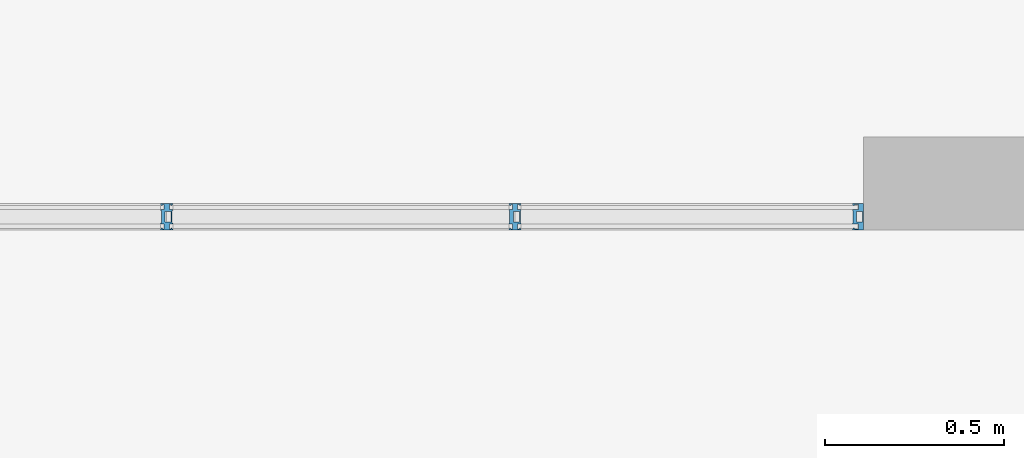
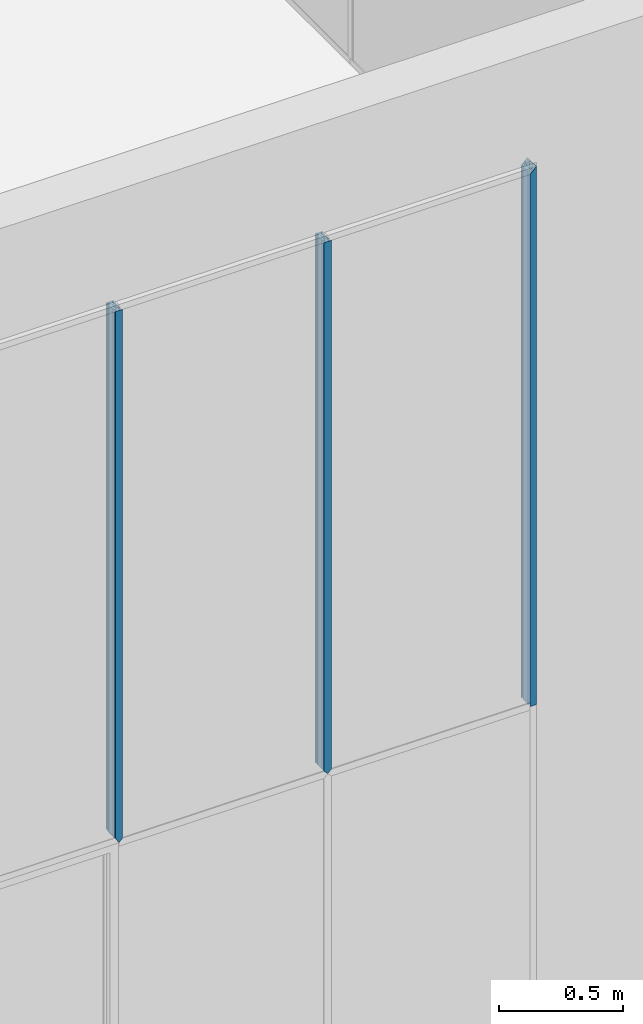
# One storey, part 68 of 246: 3 members, 1 element without a shape of its own.
"""IFC2X3 building model written with IfcOpenShell, lengths in millimetres."""

from ifc_helpers import new_model, entity, si_unit, converted_unit, derived_unit, money_unit, direction, frame, origin_with_axes, place, context, subcontext, project, spatial, faceted_brep, material, material_list, type_object, element, aggregate, save


model = new_model("IFC2X3")

# Units and contexts
model_context = context("Model", 3, precision=0.01, world=origin_with_axes(), true_north=direction((0.0, 1.0)))
body_context = subcontext(model_context, "Body", "Model", "MODEL_VIEW")
ifc_project = project(units=[si_unit("LENGTHUNIT", "METRE", prefix="MILLI"), si_unit("AREAUNIT", "SQUARE_METRE"), si_unit("VOLUMEUNIT", "CUBIC_METRE"), converted_unit("PLANEANGLEUNIT", "DEGREE", entity("IfcPlaneAngleMeasure", 0.0174532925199), si_unit("PLANEANGLEUNIT", "RADIAN"), dimensions=[0, 0, 0, 0, 0, 0, 0]), si_unit("SOLIDANGLEUNIT", "STERADIAN"), money_unit("EUR"), converted_unit("TIMEUNIT", "Year", entity("IfcTimeMeasure", 31556926.0), si_unit("TIMEUNIT", "SECOND"), dimensions=[0, 0, 1, 0, 0, 0, 0]), si_unit("MASSUNIT", "GRAM", prefix="KILO"), si_unit("THERMODYNAMICTEMPERATUREUNIT", "DEGREE_CELSIUS"), si_unit("LUMINOUSINTENSITYUNIT", "LUMEN"), si_unit("ENERGYUNIT", "JOULE", prefix="MEGA"), derived_unit("THERMALCONDUCTANCEUNIT", [(si_unit("POWERUNIT", "WATT"), 1), (si_unit("LENGTHUNIT", "METRE"), -1), (si_unit("THERMODYNAMICTEMPERATUREUNIT", "KELVIN"), -1)]), derived_unit("SPECIFICHEATCAPACITYUNIT", [(si_unit("ENERGYUNIT", "JOULE"), 1), (si_unit("MASSUNIT", "GRAM", prefix="KILO"), -1), (si_unit("THERMODYNAMICTEMPERATUREUNIT", "KELVIN"), -1)]), derived_unit("MASSDENSITYUNIT", [(si_unit("MASSUNIT", "GRAM", prefix="KILO"), 1), (si_unit("VOLUMEUNIT", "CUBIC_METRE"), -1)])], contexts=[model_context])

# Site, building, storey
site_placement = place(None, origin_with_axes())
site = spatial("IfcSite", under=ifc_project, at=site_placement, Name="L.Koidula tn 11b", CompositionType="ELEMENT")
building_placement = place(site_placement, origin_with_axes())
building = spatial("IfcBuilding", under=site, at=building_placement, Name="Rakvere Riigigümnaasium", CompositionType="ELEMENT")
storey_placement = place(building_placement, origin_with_axes())
storey = spatial("IfcBuildingStorey", under=building, at=storey_placement, Name="1.korrus 0,00", CompositionType="ELEMENT", Elevation=0.0)

# Curtain wall, members
curtain_wall_type = type_object("IfcCurtainWallType", Name="Curtain Wall Type", PredefinedType="NOTDEFINED")
curtain_wall_placement = place(storey_placement, frame((26572.4999007, 61372.4546496, 0.0), z_axis=(0.0, 0.0, 1.0), x_axis=(1.0, 0.0, 0.0)))
curtain_wall = element("IfcCurtainWall", 1, at=curtain_wall_placement, inside=storey, type_object=curtain_wall_type, Name="SKLF-01")
ifc_material_1 = material(Name="Klaasvill")
ifc_material_2 = material(Name="Teras RAL7012")
ifc_material_list = material_list([ifc_material_1, ifc_material_2])
member_type_1 = type_object("IfcMemberType", Name="Boundary Frame 30 x 42", PredefinedType="MULLION")
member_1_placement = place(curtain_wall_placement, frame((2917.49009075, 0.0, 2400.0), z_axis=(0.0, 0.0, 1.0), x_axis=(-1.0, 0.0, 0.0)))
member_1 = element("IfcMember", 2, at=member_1_placement, type_object=member_type_1, material=ifc_material_list, Name="SKLF-69-raam", ObjectType="MULLION", context=body_context, shape_type="Brep", body=[
    faceted_brep([(7.49999990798, 15.000000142, 0.0), (13.8499999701, 15.000000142, 0.0), (13.8499999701, 15.000000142, 2636.15000003), (7.49999990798, 15.000000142, 2642.50000009), (7.49999990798, 29.0161444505, 0.0), (13.8499999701, 29.0161444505, 0.0), (13.8499999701, 29.0161444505, 2636.15000003), (7.49999990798, 29.0161444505, 2642.50000009)], [[[0, 1, 2, 3]], [[0, 4, 5, 1]], [[1, 5, 6, 2]], [[3, 2, 6, 7]], [[4, 0, 3, 7]], [[5, 4, 7, 6]]]),
    faceted_brep([(24.987414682, 29.0161444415, 0.0), (25.004489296, 27.0307503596, 0.0), (25.004489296, 27.0307503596, 2624.9955107), (24.987414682, 29.0161444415, 2625.01258532), (28.5126239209, 29.0161444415, 0.0), (28.7655837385, 28.0385325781, 0.0), (28.4955493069, 27.0307503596, 0.0), (27.75780152, 26.2930025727, 0.0), (26.7500193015, 26.0229681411, 0.0), (25.742237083, 26.2930025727, 0.0), (25.742237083, 26.2930025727, 2624.25776292), (26.7500193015, 26.0229681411, 2623.2499807), (27.75780152, 26.2930025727, 2622.24219848), (28.4955493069, 27.0307503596, 2621.50445069), (28.7655837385, 28.0385325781, 2621.23441626), (28.5126239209, 29.0161444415, 2621.48737608)], [[[0, 1, 2, 3]], [[0, 4, 5, 6, 7, 8, 9, 1]], [[1, 9, 10, 2]], [[3, 2, 10, 11, 12, 13, 14, 15]], [[4, 0, 3, 15]], [[5, 4, 15, 14]], [[6, 5, 14, 13]], [[7, 6, 13, 12]], [[8, 7, 12, 11]], [[9, 8, 11, 10]]]),
    faceted_brep([(7.49999990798, -24.9999997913, 0.0), (7.49999990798, -39.0161445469, 0.0), (7.49999990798, -39.0161445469, 2642.50000009), (7.49999990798, -24.9999997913, 2642.50000009), (13.8499999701, -24.9999997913, 0.0), (13.8499999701, -39.0161445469, 0.0), (13.8499999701, -39.0161445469, 2636.15000003), (13.8499999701, -24.9999997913, 2636.15000003)], [[[0, 1, 2, 3]], [[0, 4, 5, 1]], [[1, 5, 6, 2]], [[3, 2, 6, 7]], [[4, 0, 3, 7]], [[5, 4, 7, 6]]]),
    faceted_brep([(25.004489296, -37.0307503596, 0.0), (24.987414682, -39.0161444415, 0.0), (24.987414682, -39.0161444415, 2625.01258532), (25.004489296, -37.0307503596, 2624.9955107), (25.742237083, -36.2930025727, 0.0), (26.7500193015, -36.0229681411, 0.0), (27.75780152, -36.2930025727, 0.0), (28.4955493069, -37.0307503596, 0.0), (28.7655837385, -38.0385325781, 0.0), (28.5126239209, -39.0161444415, 0.0), (28.5126239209, -39.0161444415, 2621.48737608), (28.7655837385, -38.0385325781, 2621.23441626), (28.4955493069, -37.0307503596, 2621.50445069), (27.75780152, -36.2930025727, 2622.24219848), (26.7500193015, -36.0229681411, 2623.2499807), (25.742237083, -36.2930025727, 2624.25776292)], [[[0, 1, 2, 3]], [[0, 4, 5, 6, 7, 8, 9, 1]], [[1, 9, 10, 2]], [[3, 2, 10, 11, 12, 13, 14, 15]], [[4, 0, 3, 15]], [[5, 4, 15, 14]], [[6, 5, 14, 13]], [[7, 6, 13, 12]], [[8, 7, 12, 11]], [[9, 8, 11, 10]]]),
    faceted_brep([(0.0, -22.0000000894, 0.0), (29.5999996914, -22.0000000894, 0.0), (29.5999996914, -22.0000000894, 2620.40000031), (0.0, -22.0000000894, 2650.0), (0.0, 12.0000000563, 0.0), (29.5999996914, 12.0000000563, 0.0), (1.9999999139, 10.0000001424, 0.0), (1.9999999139, -20.0000001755, 0.0), (18.7999996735, -20.0000001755, 0.0), (18.7999996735, 10.0000001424, 0.0), (29.5999996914, 12.0000000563, 2620.40000031), (0.0, 12.0000000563, 2650.0), (1.9999999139, 10.0000001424, 2648.00000009), (18.7999996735, 10.0000001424, 2631.20000033), (18.7999996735, -20.0000001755, 2631.20000033), (1.9999999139, -20.0000001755, 2648.00000009)], [[[0, 1, 2, 3]], [[0, 4, 5, 1], [6, 7, 8, 9]], [[1, 5, 10, 2]], [[3, 2, 10, 11], [12, 13, 14, 15]], [[4, 0, 3, 11]], [[5, 4, 11, 10]], [[7, 6, 12, 15]], [[8, 7, 15, 14]], [[9, 8, 14, 13]], [[6, 9, 13, 12]]]),
    faceted_brep([(0.0, 12.0, 0.0), (29.5999996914, 12.0000000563, 0.0), (29.5999996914, 12.0000000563, 2620.40000031), (0.0, 12.0, 2650.0), (0.0, 32.0, 0.0), (30.0000193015, 32.0, 0.0), (30.0000193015, 29.0161444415, 0.0), (28.5126239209, 29.0161444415, 0.0), (24.987414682, 29.0161444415, 0.0), (13.8499999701, 29.0161444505, 0.0), (7.49999999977, 29.0161444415, 0.0), (7.49999999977, 15.0, 0.0), (13.8499999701, 15.000000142, 0.0), (30.0000193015, 15.0, 0.0), (30.0000193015, 12.0, 0.0), (30.0000193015, 12.0, 2619.9999807), (30.0000193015, 15.0, 2619.9999807), (13.8499999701, 15.000000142, 2636.15000003), (7.49999999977, 15.0, 2642.5), (7.49999999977, 29.0161444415, 2642.5), (13.8499999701, 29.0161444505, 2636.15000003), (24.987414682, 29.0161444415, 2625.01258532), (28.5126239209, 29.0161444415, 2621.48737608), (30.0000193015, 29.0161444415, 2619.9999807), (30.0000193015, 32.0, 2619.9999807), (0.0, 32.0, 2650.0)], [[[0, 1, 2, 3]], [[0, 4, 5, 6, 7, 8, 9, 10, 11, 12, 13, 14, 1]], [[1, 14, 15, 2]], [[3, 2, 15, 16, 17, 18, 19, 20, 21, 22, 23, 24, 25]], [[4, 0, 3, 25]], [[5, 4, 25, 24]], [[6, 5, 24, 23]], [[7, 6, 23, 22]], [[8, 7, 22, 21]], [[9, 8, 21, 20]], [[10, 9, 20, 19]], [[11, 10, 19, 18]], [[12, 11, 18, 17]], [[13, 12, 17, 16]], [[14, 13, 16, 15]]]),
    faceted_brep([(0.0, -22.0, 0.0), (0.0, -42.0, 0.0), (0.0, -42.0, 2650.0), (0.0, -22.0, 2650.0), (29.5999996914, -22.0000000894, 0.0), (30.0000193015, -22.0, 0.0), (30.0000193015, -25.0, 0.0), (13.8499999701, -24.9999997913, 0.0), (7.49999999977, -25.0, 0.0), (7.49999999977, -39.0161444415, 0.0), (13.8499999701, -39.0161445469, 0.0), (24.987414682, -39.0161444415, 0.0), (28.5126239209, -39.0161444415, 0.0), (30.0000193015, -39.0161444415, 0.0), (30.0000193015, -42.0, 0.0), (30.0000193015, -42.0, 2619.9999807), (30.0000193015, -39.0161444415, 2619.9999807), (28.5126239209, -39.0161444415, 2621.48737608), (24.987414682, -39.0161444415, 2625.01258532), (13.8499999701, -39.0161445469, 2636.15000003), (7.49999999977, -39.0161444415, 2642.5), (7.49999999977, -25.0, 2642.5), (13.8499999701, -24.9999997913, 2636.15000003), (30.0000193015, -25.0, 2619.9999807), (30.0000193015, -22.0, 2619.9999807), (29.5999996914, -22.0000000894, 2620.40000031)], [[[0, 1, 2, 3]], [[0, 4, 5, 6, 7, 8, 9, 10, 11, 12, 13, 14, 1]], [[1, 14, 15, 2]], [[3, 2, 15, 16, 17, 18, 19, 20, 21, 22, 23, 24, 25]], [[4, 0, 3, 25]], [[5, 4, 25, 24]], [[6, 5, 24, 23]], [[7, 6, 23, 22]], [[8, 7, 22, 21]], [[9, 8, 21, 20]], [[10, 9, 20, 19]], [[11, 10, 19, 18]], [[12, 11, 18, 17]], [[13, 12, 17, 16]], [[14, 13, 16, 15]]]),
])
member_type_2 = type_object("IfcMemberType", Name="Siseklaasfassaad-Vaheprofiil-Doubleline30 34 x 42", PredefinedType="MULLION")
member_2_placement = place(curtain_wall_placement, frame((972.5, 0.0, 2400.0), z_axis=(0.0, 0.0, 1.0), x_axis=(-1.0, 0.0, 0.0)))
member_2 = element("IfcMember", 3, at=member_2_placement, type_object=member_type_2, material=ifc_material_list, Name="Frame-Siseklaasf-021", ObjectType="MULLION", context=body_context, shape_type="Brep", body=[
    faceted_brep([(15.4955493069, 27.0307503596, 27.3450735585), (15.7655837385, 28.0385325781, 27.8216046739), (15.7655837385, 28.0385325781, 2619.9999807), (15.4955493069, 27.0307503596, 2619.9999807), (15.5126239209, 29.0161444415, 27.3752052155), (14.75780152, 26.2930025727, 26.0431663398), (13.7500193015, 26.0229681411, 24.2647280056), (12.742237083, 26.2930025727, 22.4862896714), (12.004489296, 27.0307503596, 21.1843824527), (11.987414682, 29.0161444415, 21.1542507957), (15.5126239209, 29.0161444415, 2619.9999807), (11.987414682, 29.0161444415, 2619.9999807), (12.004489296, 27.0307503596, 2619.9999807), (12.742237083, 26.2930025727, 2619.9999807), (13.7500193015, 26.0229681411, 2619.9999807), (14.75780152, 26.2930025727, 2619.9999807)], [[[0, 1, 2, 3]], [[4, 1, 0, 5, 6, 7, 8, 9]], [[1, 4, 10, 2]], [[3, 2, 10, 11, 12, 13, 14, 15]], [[5, 0, 3, 15]], [[6, 5, 15, 14]], [[7, 6, 14, 13]], [[8, 7, 13, 12]], [[9, 8, 12, 11]], [[4, 9, 11, 10]]]),
    faceted_brep([(11.987414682, -39.0161444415, 21.1542507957), (15.5126239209, -39.0161444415, 27.3752052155), (15.5126239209, -39.0161444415, 2619.9999807), (11.987414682, -39.0161444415, 2619.9999807), (15.4955493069, -37.0307503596, 27.3450735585), (11.7344548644, -38.0385325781, 20.7078513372), (12.004489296, -37.0307503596, 21.1843824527), (12.742237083, -36.2930025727, 22.4862896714), (13.7500193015, -36.0229681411, 24.2647280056), (14.75780152, -36.2930025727, 26.0431663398), (15.4955493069, -37.0307503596, 2619.9999807), (12.004489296, -37.0307503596, 2619.9999807), (11.7344548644, -38.0385325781, 2619.9999807), (14.75780152, -36.2930025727, 2619.9999807), (13.7500193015, -36.0229681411, 2619.9999807), (12.742237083, -36.2930025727, 2619.9999807)], [[[0, 1, 2, 3]], [[4, 1, 0, 5, 6, 7, 8, 9]], [[1, 4, 10, 2]], [[11, 12, 3, 2, 10, 13, 14, 15]], [[5, 0, 3, 12]], [[6, 5, 12, 11]], [[7, 6, 11, 15]], [[8, 7, 15, 14]], [[9, 8, 14, 13]], [[4, 9, 13, 10]]]),
    faceted_brep([(-12.004489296, 27.0307503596, 12.004489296), (-11.7344548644, 28.0385325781, 11.7344548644), (-11.7344548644, 28.0385325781, 2619.9999807), (-12.004489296, 27.0307503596, 2619.9999807), (-11.987414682, 29.0161444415, 11.987414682), (-12.742237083, 26.2930025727, 12.742237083), (-13.7500193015, 26.0229681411, 13.7500193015), (-14.75780152, 26.2930025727, 14.75780152), (-15.4955493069, 27.0307503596, 15.4955493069), (-15.7655837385, 28.0385325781, 15.7655837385), (-11.987414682, 29.0161444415, 2619.9999807), (-12.742237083, 26.2930025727, 2619.9999807), (-15.7655837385, 28.0385325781, 2619.9999807), (-15.4955493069, 27.0307503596, 2619.9999807), (-14.75780152, 26.2930025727, 2619.9999807), (-13.7500193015, 26.0229681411, 2619.9999807)], [[[0, 1, 2, 3]], [[4, 1, 0, 5, 6, 7, 8, 9]], [[1, 4, 10, 2]], [[11, 3, 2, 10, 12, 13, 14, 15]], [[5, 0, 3, 11]], [[6, 5, 11, 15]], [[7, 6, 15, 14]], [[8, 7, 14, 13]], [[9, 8, 13, 12]], [[4, 9, 12, 10]]]),
    faceted_brep([(-11.987414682, -39.0161444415, 11.987414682), (-11.7344548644, -38.0385325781, 11.7344548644), (-11.7344548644, -38.0385325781, 2619.9999807), (-11.987414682, -39.0161444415, 2619.9999807), (-12.004489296, -37.0307503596, 12.004489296), (-15.5126239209, -39.0161444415, 15.5126239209), (-15.4955493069, -37.0307503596, 15.4955493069), (-14.75780152, -36.2930025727, 14.75780152), (-13.7500193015, -36.0229681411, 13.7500193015), (-12.742237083, -36.2930025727, 12.742237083), (-12.004489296, -37.0307503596, 2619.9999807), (-12.742237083, -36.2930025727, 2619.9999807), (-13.7500193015, -36.0229681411, 2619.9999807), (-14.75780152, -36.2930025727, 2619.9999807), (-15.4955493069, -37.0307503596, 2619.9999807), (-15.5126239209, -39.0161444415, 2619.9999807)], [[[0, 1, 2, 3]], [[4, 1, 0, 5, 6, 7, 8, 9]], [[1, 4, 10, 2]], [[11, 12, 13, 14, 15, 3, 2, 10]], [[5, 0, 3, 15]], [[6, 5, 15, 14]], [[7, 6, 14, 13]], [[8, 7, 13, 12]], [[9, 8, 12, 11]], [[4, 9, 11, 10]]]),
    faceted_brep([(-12.8000002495, 10.0000001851, 12.8000002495), (0.0, 10.0000001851, 0.0), (4.0000003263, 10.0000001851, 7.05882063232), (4.0000003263, 10.0000001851, 2619.9999807), (-12.8000002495, 10.0000001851, 2619.9999807), (-14.8000001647, 12.0000001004, 14.8000001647), (0.0, 12.0000001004, 0.0), (-12.8000002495, -20.0000001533, 12.8000002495), (0.0, -20.0000001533, 0.0), (0.0, -22.0000000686, 0.0), (-14.8000001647, -22.0000000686, 14.8000001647), (14.8000003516, 12.0000001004, 26.1176348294), (14.8000003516, -22.0000000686, 26.1176348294), (4.0000003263, -20.0000001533, 7.05882063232), (4.0000003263, -20.0000001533, 2619.9999807), (14.8000003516, 12.0000001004, 2619.9999807), (-3.08905781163e-07, 12.0000001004, 2619.9999807), (-14.8000001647, 12.0000001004, 2619.9999807), (-14.8000001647, -22.0000000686, 2619.9999807), (-3.08905781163e-07, -22.0000000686, 2619.9999807), (14.8000003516, -22.0000000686, 2619.9999807), (-12.8000002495, -20.0000001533, 2619.9999807)], [[[0, 1, 2, 3, 4]], [[5, 6, 1, 0, 7, 8, 9, 10]], [[6, 11, 12, 9, 8, 13, 2, 1]], [[2, 13, 14, 3]], [[15, 16, 17, 18, 19, 20], [3, 14, 21, 4]], [[7, 0, 4, 21]], [[6, 5, 17, 16]], [[8, 7, 21, 14, 13]], [[10, 9, 19, 18]], [[5, 10, 18, 17]], [[11, 6, 16, 15]], [[12, 11, 15, 20]], [[9, 12, 20, 19]]]),
    faceted_brep([(17.0000193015, 29.0161446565, 30.0000193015), (17.0000193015, 32.0000000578, 30.0000193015), (17.0000193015, 32.0000000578, 2619.9999807), (17.0000193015, 29.0161446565, 2619.9999807), (0.0, 32.0000000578, 0.0), (15.5126239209, 29.0161444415, 27.3752052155), (11.987414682, 29.0161444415, 21.1542507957), (7.50000002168, 29.0161446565, 13.2352876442), (7.50000002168, 15.0000000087, 13.2352876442), (17.0000193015, 15.0000000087, 30.0000193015), (17.0000193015, 12.0, 30.0000193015), (14.8000003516, 12.0000001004, 26.1176348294), (0.0, 12.0, 0.0), (0.0, 32.0000000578, 2619.9999807), (15.5126239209, 29.0161444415, 2619.9999807), (0.0, 12.0, 2619.9999807), (14.8000003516, 12.0000001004, 2619.9999807), (17.0000193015, 12.0, 2619.9999807), (17.0000193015, 15.0000000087, 2619.9999807), (7.50000002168, 15.0000000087, 2619.9999807), (7.50000002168, 29.0161446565, 2619.9999807), (11.987414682, 29.0161444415, 2619.9999807)], [[[0, 1, 2, 3]], [[4, 1, 0, 5, 6, 7, 8, 9, 10, 11, 12]], [[1, 4, 13, 2]], [[14, 3, 2, 13, 15, 16, 17, 18, 19, 20, 21]], [[5, 0, 3, 14]], [[6, 5, 14, 21]], [[7, 6, 21, 20]], [[8, 7, 20, 19]], [[9, 8, 19, 18]], [[10, 9, 18, 17]], [[11, 10, 17, 16]], [[12, 11, 16, 15]], [[4, 12, 15, 13]]]),
    faceted_brep([(17.0000193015, -24.9999999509, 30.0000193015), (17.0000193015, -21.9999999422, 30.0000193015), (17.0000193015, -21.9999999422, 2619.9999807), (17.0000193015, -24.9999999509, 2619.9999807), (14.8000003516, -22.0000000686, 26.1176348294), (7.50000002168, -24.9999999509, 13.2352876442), (7.50000002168, -39.0161445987, 13.2352876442), (11.987414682, -39.0161444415, 21.1542507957), (15.5126239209, -39.0161444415, 27.3752052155), (17.0000193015, -39.0161445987, 30.0000193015), (17.0000193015, -42.0, 30.0000193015), (0.0, -42.0, 0.0), (0.0, -21.9999999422, 0.0), (14.8000003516, -22.0000000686, 2619.9999807), (0.0, -21.9999999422, 2619.9999807), (0.0, -42.0, 2619.9999807), (17.0000193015, -42.0, 2619.9999807), (17.0000193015, -39.0161445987, 2619.9999807), (15.5126239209, -39.0161444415, 2619.9999807), (11.987414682, -39.0161444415, 2619.9999807), (7.50000002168, -39.0161445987, 2619.9999807), (7.50000002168, -24.9999999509, 2619.9999807)], [[[0, 1, 2, 3]], [[4, 1, 0, 5, 6, 7, 8, 9, 10, 11, 12]], [[1, 4, 13, 2]], [[3, 2, 13, 14, 15, 16, 17, 18, 19, 20, 21]], [[5, 0, 3, 21]], [[6, 5, 21, 20]], [[7, 6, 20, 19]], [[8, 7, 19, 18]], [[9, 8, 18, 17]], [[10, 9, 17, 16]], [[11, 10, 16, 15]], [[12, 11, 15, 14]], [[4, 12, 14, 13]]]),
    faceted_brep([(0.0, 12.0, 0.0), (0.0, 32.0, 0.0), (0.0, 32.0, 2619.9999807), (0.0, 12.0, 2619.9999807), (-17.0000193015, 32.0, 17.0000193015), (-14.8000001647, 12.0000001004, 14.8000001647), (-17.0000193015, 12.0, 17.0000193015), (-17.0000193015, 15.0, 17.0000193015), (-7.49999999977, 15.0, 7.49999999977), (-7.49999999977, 29.0161444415, 7.49999999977), (-11.987414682, 29.0161444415, 11.987414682), (-15.5126239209, 29.0161444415, 15.5126239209), (-17.0000193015, 29.0161444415, 17.0000193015), (-17.0000193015, 32.0, 2619.9999807), (-17.0000193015, 15.0, 2619.9999807), (-17.0000193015, 12.0, 2619.9999807), (-14.8000001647, 12.0000001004, 2619.9999807), (-17.0000193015, 29.0161444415, 2619.9999807), (-15.5126239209, 29.0161444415, 2619.9999807), (-11.987414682, 29.0161444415, 2619.9999807), (-7.49999999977, 29.0161444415, 2619.9999807), (-7.49999999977, 15.0, 2619.9999807)], [[[0, 1, 2, 3]], [[4, 1, 0, 5, 6, 7, 8, 9, 10, 11, 12]], [[1, 4, 13, 2]], [[14, 15, 16, 3, 2, 13, 17, 18, 19, 20, 21]], [[5, 0, 3, 16]], [[6, 5, 16, 15]], [[7, 6, 15, 14]], [[8, 7, 14, 21]], [[9, 8, 21, 20]], [[10, 9, 20, 19]], [[11, 10, 19, 18]], [[12, 11, 18, 17]], [[4, 12, 17, 13]]]),
    faceted_brep([(0.0, -42.0, 0.0), (0.0, -22.0, 0.0), (0.0, -22.0, 2619.9999807), (0.0, -42.0, 2619.9999807), (-14.8000001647, -22.0000000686, 14.8000001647), (-17.0000193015, -42.0, 17.0000193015), (-17.0000193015, -39.0161444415, 17.0000193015), (-15.5126239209, -39.0161444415, 15.5126239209), (-11.987414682, -39.0161444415, 11.987414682), (-7.49999999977, -39.0161444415, 7.49999999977), (-7.49999999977, -25.0, 7.49999999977), (-17.0000193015, -25.0, 17.0000193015), (-17.0000193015, -22.0, 17.0000193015), (-14.8000001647, -22.0000000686, 2619.9999807), (-17.0000193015, -39.0161444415, 2619.9999807), (-17.0000193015, -42.0, 2619.9999807), (-17.0000193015, -22.0, 2619.9999807), (-17.0000193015, -25.0, 2619.9999807), (-7.49999999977, -25.0, 2619.9999807), (-7.49999999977, -39.0161444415, 2619.9999807), (-11.987414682, -39.0161444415, 2619.9999807), (-15.5126239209, -39.0161444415, 2619.9999807)], [[[0, 1, 2, 3]], [[4, 1, 0, 5, 6, 7, 8, 9, 10, 11, 12]], [[1, 4, 13, 2]], [[14, 15, 3, 2, 13, 16, 17, 18, 19, 20, 21]], [[5, 0, 3, 15]], [[6, 5, 15, 14]], [[7, 6, 14, 21]], [[8, 7, 21, 20]], [[9, 8, 20, 19]], [[10, 9, 19, 18]], [[11, 10, 18, 17]], [[12, 11, 17, 16]], [[4, 12, 16, 13]]]),
])
member_3_placement = place(curtain_wall_placement, frame((1945.0, 0.0, 2400.0), z_axis=(0.0, 0.0, 1.0), x_axis=(-1.0, 0.0, 0.0)))
member_3 = element("IfcMember", 4, at=member_3_placement, type_object=member_type_2, material=ifc_material_list, Name="Frame-Siseklaasf-021", ObjectType="MULLION", context=body_context, shape_type="Brep", body=[
    faceted_brep([(15.4955493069, 27.0307503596, 15.4955493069), (15.7655837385, 28.0385325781, 15.7655837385), (15.7655837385, 28.0385325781, 2619.9999807), (15.4955493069, 27.0307503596, 2619.9999807), (15.5126239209, 29.0161444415, 15.5126239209), (14.75780152, 26.2930025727, 14.75780152), (13.7500193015, 26.0229681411, 13.7500193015), (12.742237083, 26.2930025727, 12.742237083), (12.004489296, 27.0307503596, 12.004489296), (11.987414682, 29.0161444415, 11.987414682), (15.5126239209, 29.0161444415, 2619.9999807), (11.987414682, 29.0161444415, 2619.9999807), (12.004489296, 27.0307503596, 2619.9999807), (12.742237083, 26.2930025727, 2619.9999807), (13.7500193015, 26.0229681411, 2619.9999807), (14.75780152, 26.2930025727, 2619.9999807)], [[[0, 1, 2, 3]], [[4, 1, 0, 5, 6, 7, 8, 9]], [[1, 4, 10, 2]], [[3, 2, 10, 11, 12, 13, 14, 15]], [[5, 0, 3, 15]], [[6, 5, 15, 14]], [[7, 6, 14, 13]], [[8, 7, 13, 12]], [[9, 8, 12, 11]], [[4, 9, 11, 10]]]),
    faceted_brep([(11.987414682, -39.0161444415, 11.987414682), (15.5126239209, -39.0161444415, 15.5126239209), (15.5126239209, -39.0161444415, 2619.9999807), (11.987414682, -39.0161444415, 2619.9999807), (15.4955493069, -37.0307503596, 15.4955493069), (11.7344548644, -38.0385325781, 11.7344548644), (12.004489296, -37.0307503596, 12.004489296), (12.742237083, -36.2930025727, 12.742237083), (13.7500193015, -36.0229681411, 13.7500193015), (14.75780152, -36.2930025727, 14.75780152), (15.4955493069, -37.0307503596, 2619.9999807), (12.004489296, -37.0307503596, 2619.9999807), (11.7344548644, -38.0385325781, 2619.9999807), (14.75780152, -36.2930025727, 2619.9999807), (13.7500193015, -36.0229681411, 2619.9999807), (12.742237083, -36.2930025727, 2619.9999807)], [[[0, 1, 2, 3]], [[4, 1, 0, 5, 6, 7, 8, 9]], [[1, 4, 10, 2]], [[11, 12, 3, 2, 10, 13, 14, 15]], [[5, 0, 3, 12]], [[6, 5, 12, 11]], [[7, 6, 11, 15]], [[8, 7, 15, 14]], [[9, 8, 14, 13]], [[4, 9, 13, 10]]]),
    faceted_brep([(-12.004489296, 27.0307503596, 12.004489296), (-11.7344548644, 28.0385325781, 11.7344548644), (-11.7344548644, 28.0385325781, 2619.9999807), (-12.004489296, 27.0307503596, 2619.9999807), (-11.987414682, 29.0161444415, 11.987414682), (-12.742237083, 26.2930025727, 12.742237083), (-13.7500193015, 26.0229681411, 13.7500193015), (-14.75780152, 26.2930025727, 14.75780152), (-15.4955493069, 27.0307503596, 15.4955493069), (-15.7655837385, 28.0385325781, 15.7655837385), (-11.987414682, 29.0161444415, 2619.9999807), (-12.742237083, 26.2930025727, 2619.9999807), (-15.7655837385, 28.0385325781, 2619.9999807), (-15.4955493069, 27.0307503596, 2619.9999807), (-14.75780152, 26.2930025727, 2619.9999807), (-13.7500193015, 26.0229681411, 2619.9999807)], [[[0, 1, 2, 3]], [[4, 1, 0, 5, 6, 7, 8, 9]], [[1, 4, 10, 2]], [[11, 3, 2, 10, 12, 13, 14, 15]], [[5, 0, 3, 11]], [[6, 5, 11, 15]], [[7, 6, 15, 14]], [[8, 7, 14, 13]], [[9, 8, 13, 12]], [[4, 9, 12, 10]]]),
    faceted_brep([(-11.987414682, -39.0161444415, 11.987414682), (-11.7344548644, -38.0385325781, 11.7344548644), (-11.7344548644, -38.0385325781, 2619.9999807), (-11.987414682, -39.0161444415, 2619.9999807), (-12.004489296, -37.0307503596, 12.004489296), (-15.5126239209, -39.0161444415, 15.5126239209), (-15.4955493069, -37.0307503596, 15.4955493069), (-14.75780152, -36.2930025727, 14.75780152), (-13.7500193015, -36.0229681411, 13.7500193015), (-12.742237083, -36.2930025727, 12.742237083), (-12.004489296, -37.0307503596, 2619.9999807), (-12.742237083, -36.2930025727, 2619.9999807), (-13.7500193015, -36.0229681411, 2619.9999807), (-14.75780152, -36.2930025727, 2619.9999807), (-15.4955493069, -37.0307503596, 2619.9999807), (-15.5126239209, -39.0161444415, 2619.9999807)], [[[0, 1, 2, 3]], [[4, 1, 0, 5, 6, 7, 8, 9]], [[1, 4, 10, 2]], [[11, 12, 13, 14, 15, 3, 2, 10]], [[5, 0, 3, 15]], [[6, 5, 15, 14]], [[7, 6, 14, 13]], [[8, 7, 13, 12]], [[9, 8, 12, 11]], [[4, 9, 11, 10]]]),
    faceted_brep([(-12.8000002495, 10.0000001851, 12.8000002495), (0.0, 10.0000001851, 0.0), (4.0000003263, 10.0000001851, 4.0000003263), (4.0000003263, 10.0000001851, 2619.9999807), (-12.8000002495, 10.0000001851, 2619.9999807), (-14.8000001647, 12.0000001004, 14.8000001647), (0.0, 12.0000001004, 0.0), (-12.8000002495, -20.0000001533, 12.8000002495), (0.0, -20.0000001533, 0.0), (0.0, -22.0000000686, 0.0), (-14.8000001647, -22.0000000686, 14.8000001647), (14.8000003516, 12.0000001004, 14.8000003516), (14.8000003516, -22.0000000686, 14.8000003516), (4.0000003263, -20.0000001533, 4.0000003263), (4.0000003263, -20.0000001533, 2619.9999807), (14.8000003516, 12.0000001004, 2619.9999807), (-3.08905781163e-07, 12.0000001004, 2619.9999807), (-14.8000001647, 12.0000001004, 2619.9999807), (-14.8000001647, -22.0000000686, 2619.9999807), (-3.08905781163e-07, -22.0000000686, 2619.9999807), (14.8000003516, -22.0000000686, 2619.9999807), (-12.8000002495, -20.0000001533, 2619.9999807)], [[[0, 1, 2, 3, 4]], [[5, 6, 1, 0, 7, 8, 9, 10]], [[6, 11, 12, 9, 8, 13, 2, 1]], [[2, 13, 14, 3]], [[15, 16, 17, 18, 19, 20], [3, 14, 21, 4]], [[7, 0, 4, 21]], [[6, 5, 17, 16]], [[8, 7, 21, 14, 13]], [[10, 9, 19, 18]], [[5, 10, 18, 17]], [[11, 6, 16, 15]], [[12, 11, 15, 20]], [[9, 12, 20, 19]]]),
    faceted_brep([(17.0000193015, 29.0161446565, 17.0000193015), (17.0000193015, 32.0000000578, 17.0000193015), (17.0000193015, 32.0000000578, 2619.9999807), (17.0000193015, 29.0161446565, 2619.9999807), (0.0, 32.0000000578, 0.0), (15.5126239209, 29.0161444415, 15.5126239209), (11.987414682, 29.0161444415, 11.987414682), (7.50000002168, 29.0161446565, 7.50000002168), (7.50000002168, 15.0000000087, 7.50000002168), (17.0000193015, 15.0000000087, 17.0000193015), (17.0000193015, 12.0, 17.0000193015), (14.8000003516, 12.0000001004, 14.8000003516), (0.0, 12.0, 0.0), (0.0, 32.0000000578, 2619.9999807), (15.5126239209, 29.0161444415, 2619.9999807), (0.0, 12.0, 2619.9999807), (14.8000003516, 12.0000001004, 2619.9999807), (17.0000193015, 12.0, 2619.9999807), (17.0000193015, 15.0000000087, 2619.9999807), (7.50000002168, 15.0000000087, 2619.9999807), (7.50000002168, 29.0161446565, 2619.9999807), (11.987414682, 29.0161444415, 2619.9999807)], [[[0, 1, 2, 3]], [[4, 1, 0, 5, 6, 7, 8, 9, 10, 11, 12]], [[1, 4, 13, 2]], [[14, 3, 2, 13, 15, 16, 17, 18, 19, 20, 21]], [[5, 0, 3, 14]], [[6, 5, 14, 21]], [[7, 6, 21, 20]], [[8, 7, 20, 19]], [[9, 8, 19, 18]], [[10, 9, 18, 17]], [[11, 10, 17, 16]], [[12, 11, 16, 15]], [[4, 12, 15, 13]]]),
    faceted_brep([(17.0000193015, -24.9999999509, 17.0000193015), (17.0000193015, -21.9999999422, 17.0000193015), (17.0000193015, -21.9999999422, 2619.9999807), (17.0000193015, -24.9999999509, 2619.9999807), (14.8000003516, -22.0000000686, 14.8000003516), (7.50000002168, -24.9999999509, 7.50000002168), (7.50000002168, -39.0161445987, 7.50000002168), (11.987414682, -39.0161444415, 11.987414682), (15.5126239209, -39.0161444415, 15.5126239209), (17.0000193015, -39.0161445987, 17.0000193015), (17.0000193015, -42.0, 17.0000193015), (0.0, -42.0, 0.0), (0.0, -21.9999999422, 0.0), (14.8000003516, -22.0000000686, 2619.9999807), (0.0, -21.9999999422, 2619.9999807), (0.0, -42.0, 2619.9999807), (17.0000193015, -42.0, 2619.9999807), (17.0000193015, -39.0161445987, 2619.9999807), (15.5126239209, -39.0161444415, 2619.9999807), (11.987414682, -39.0161444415, 2619.9999807), (7.50000002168, -39.0161445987, 2619.9999807), (7.50000002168, -24.9999999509, 2619.9999807)], [[[0, 1, 2, 3]], [[4, 1, 0, 5, 6, 7, 8, 9, 10, 11, 12]], [[1, 4, 13, 2]], [[3, 2, 13, 14, 15, 16, 17, 18, 19, 20, 21]], [[5, 0, 3, 21]], [[6, 5, 21, 20]], [[7, 6, 20, 19]], [[8, 7, 19, 18]], [[9, 8, 18, 17]], [[10, 9, 17, 16]], [[11, 10, 16, 15]], [[12, 11, 15, 14]], [[4, 12, 14, 13]]]),
    faceted_brep([(0.0, 12.0, 0.0), (0.0, 32.0, 0.0), (0.0, 32.0, 2619.9999807), (0.0, 12.0, 2619.9999807), (-17.0000193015, 32.0, 17.0000193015), (-14.8000001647, 12.0000001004, 14.8000001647), (-17.0000193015, 12.0, 17.0000193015), (-17.0000193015, 15.0, 17.0000193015), (-7.49999999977, 15.0, 7.49999999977), (-7.49999999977, 29.0161444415, 7.49999999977), (-11.987414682, 29.0161444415, 11.987414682), (-15.5126239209, 29.0161444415, 15.5126239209), (-17.0000193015, 29.0161444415, 17.0000193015), (-17.0000193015, 32.0, 2619.9999807), (-17.0000193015, 15.0, 2619.9999807), (-17.0000193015, 12.0, 2619.9999807), (-14.8000001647, 12.0000001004, 2619.9999807), (-17.0000193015, 29.0161444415, 2619.9999807), (-15.5126239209, 29.0161444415, 2619.9999807), (-11.987414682, 29.0161444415, 2619.9999807), (-7.49999999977, 29.0161444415, 2619.9999807), (-7.49999999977, 15.0, 2619.9999807)], [[[0, 1, 2, 3]], [[4, 1, 0, 5, 6, 7, 8, 9, 10, 11, 12]], [[1, 4, 13, 2]], [[14, 15, 16, 3, 2, 13, 17, 18, 19, 20, 21]], [[5, 0, 3, 16]], [[6, 5, 16, 15]], [[7, 6, 15, 14]], [[8, 7, 14, 21]], [[9, 8, 21, 20]], [[10, 9, 20, 19]], [[11, 10, 19, 18]], [[12, 11, 18, 17]], [[4, 12, 17, 13]]]),
    faceted_brep([(0.0, -42.0, 0.0), (0.0, -22.0, 0.0), (0.0, -22.0, 2619.9999807), (0.0, -42.0, 2619.9999807), (-14.8000001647, -22.0000000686, 14.8000001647), (-17.0000193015, -42.0, 17.0000193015), (-17.0000193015, -39.0161444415, 17.0000193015), (-15.5126239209, -39.0161444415, 15.5126239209), (-11.987414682, -39.0161444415, 11.987414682), (-7.49999999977, -39.0161444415, 7.49999999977), (-7.49999999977, -25.0, 7.49999999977), (-17.0000193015, -25.0, 17.0000193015), (-17.0000193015, -22.0, 17.0000193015), (-14.8000001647, -22.0000000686, 2619.9999807), (-17.0000193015, -39.0161444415, 2619.9999807), (-17.0000193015, -42.0, 2619.9999807), (-17.0000193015, -22.0, 2619.9999807), (-17.0000193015, -25.0, 2619.9999807), (-7.49999999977, -25.0, 2619.9999807), (-7.49999999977, -39.0161444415, 2619.9999807), (-11.987414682, -39.0161444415, 2619.9999807), (-15.5126239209, -39.0161444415, 2619.9999807)], [[[0, 1, 2, 3]], [[4, 1, 0, 5, 6, 7, 8, 9, 10, 11, 12]], [[1, 4, 13, 2]], [[14, 15, 3, 2, 13, 16, 17, 18, 19, 20, 21]], [[5, 0, 3, 15]], [[6, 5, 15, 14]], [[7, 6, 14, 21]], [[8, 7, 21, 20]], [[9, 8, 20, 19]], [[10, 9, 19, 18]], [[11, 10, 18, 17]], [[12, 11, 17, 16]], [[4, 12, 16, 13]]]),
])
aggregate(curtain_wall, [member_2, member_3, member_1])

save(model, "model.ifc")
